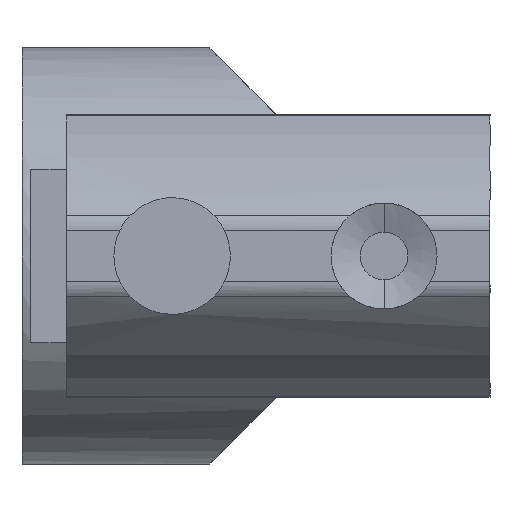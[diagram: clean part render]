
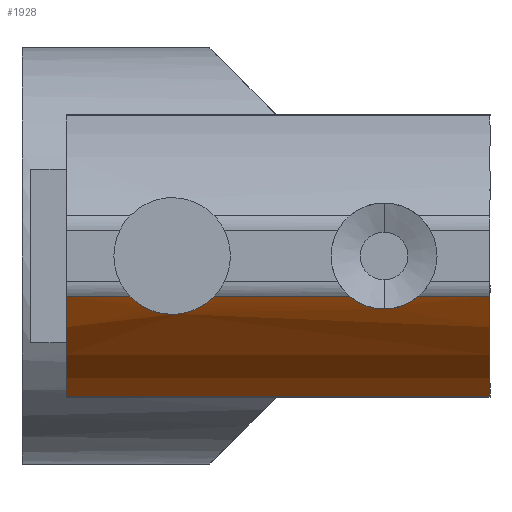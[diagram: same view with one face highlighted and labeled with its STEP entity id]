
A CAD part, left-side view. The second image highlights one B-rep face of the part: STEP entity #1928.
In plain terms, the highlighted cylindrical face has radius 8.5 mm (diameter 17 mm), a partial arc.
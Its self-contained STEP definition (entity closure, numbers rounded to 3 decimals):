
#18 = CARTESIAN_POINT ( 'NONE',  ( 1.5, -3.793, 2.817 ) ) ;
#35 = CARTESIAN_POINT ( 'NONE',  ( 1.5, -3.793, 3.094 ) ) ;
#41 = DIRECTION ( 'NONE',  ( 1., 0., 0. ) ) ;
#89 = CARTESIAN_POINT ( 'NONE',  ( 1.139, -4.068, -1.806 ) ) ;
#93 = EDGE_CURVE ( 'NONE', #2501, #506, #348, .T. ) ;
#114 = VERTEX_POINT ( 'NONE', #1478 ) ;
#165 = AXIS2_PLACEMENT_3D ( 'NONE', #2352, #2341, #735 ) ;
#198 = EDGE_LOOP ( 'NONE', ( #810, #341, #1432, #242, #1136, #1187, #2339, #2640 ) ) ;
#242 = ORIENTED_EDGE ( 'NONE', *, *, #2325, .T. ) ;
#247 = CARTESIAN_POINT ( 'NONE',  ( 1.139, -4.068, 6. ) ) ;
#252 = CARTESIAN_POINT ( 'NONE',  ( 1.139, -4.068, 2.023 ) ) ;
#327 = CARTESIAN_POINT ( 'NONE',  ( 3.967, -0.559, 6. ) ) ;
#329 = CARTESIAN_POINT ( 'NONE',  ( 1.139, -4.068, 2.023 ) ) ;
#330 = CARTESIAN_POINT ( 'NONE',  ( 1.407, -3.867, -2.131 ) ) ;
#341 = ORIENTED_EDGE ( 'NONE', *, *, #2145, .F. ) ;
#348 = LINE ( 'NONE', #2284, #2521 ) ;
#355 = VERTEX_POINT ( 'NONE', #2434 ) ;
#438 = VERTEX_POINT ( 'NONE', #1869 ) ;
#506 = VERTEX_POINT ( 'NONE', #89 ) ;
#508 = CARTESIAN_POINT ( 'NONE',  ( 1.214, -4.014, -1.878 ) ) ;
#511 = CARTESIAN_POINT ( 'NONE',  ( 1.433, -3.846, 3.451 ) ) ;
#547 = VECTOR ( 'NONE', #1413, 1000. ) ;
#572 = FACE_OUTER_BOUND ( 'NONE', #198, .T. ) ;
#591 = CARTESIAN_POINT ( 'NONE',  ( -3.828, 2.83, -6. ) ) ;
#600 = VERTEX_POINT ( 'NONE', #2157 ) ;
#664 = CARTESIAN_POINT ( 'NONE',  ( 1.248, -3.989, 3.849 ) ) ;
#680 = CARTESIAN_POINT ( 'NONE',  ( 1.465, -3.821, 2.633 ) ) ;
#722 = CARTESIAN_POINT ( 'NONE',  ( 1.139, -4.068, -4.194 ) ) ;
#735 = DIRECTION ( 'NONE',  ( 1., 0., 0. ) ) ;
#758 = DIRECTION ( 'NONE',  ( 0., 0., -1. ) ) ;
#788 = CYLINDRICAL_SURFACE ( 'NONE', #165, 8.5 ) ;
#810 = ORIENTED_EDGE ( 'NONE', *, *, #1843, .F. ) ;
#830 = DIRECTION ( 'NONE',  ( 0., 0., 1. ) ) ;
#1015 = VERTEX_POINT ( 'NONE', #327 ) ;
#1044 = CARTESIAN_POINT ( 'NONE',  ( 1.139, -4.068, 6. ) ) ;
#1067 = AXIS2_PLACEMENT_3D ( 'NONE', #591, #1696, #2775 ) ;
#1094 = CARTESIAN_POINT ( 'NONE',  ( 1.491, -3.8, 3.187 ) ) ;
#1105 = CARTESIAN_POINT ( 'NONE',  ( 1.339, -3.92, 2.301 ) ) ;
#1116 = VECTOR ( 'NONE', #758, 1000. ) ;
#1136 = ORIENTED_EDGE ( 'NONE', *, *, #93, .T. ) ;
#1158 = CARTESIAN_POINT ( 'NONE',  ( 1.65, -3.669, -3.114 ) ) ;
#1162 = VECTOR ( 'NONE', #1687, 1000. ) ;
#1168 = CARTESIAN_POINT ( 'NONE',  ( 3.967, -0.559, 6. ) ) ;
#1187 = ORIENTED_EDGE ( 'NONE', *, *, #2007, .T. ) ;
#1203 = CARTESIAN_POINT ( 'NONE',  ( 1.553, -3.75, -3.567 ) ) ;
#1219 = CARTESIAN_POINT ( 'NONE',  ( -3.828, 2.83, 6. ) ) ;
#1292 = CARTESIAN_POINT ( 'NONE',  ( 1.139, -4.068, 3.977 ) ) ;
#1302 = CARTESIAN_POINT ( 'NONE',  ( 1.338, -3.92, 3.701 ) ) ;
#1383 = B_SPLINE_CURVE_WITH_KNOTS ( 'NONE', 3,
 ( #1292, #664, #1302, #511, #1548, #1094, #35, #18, #680, #1105, #1423, #252 ),
 .UNSPECIFIED., .F., .F.,
 ( 4, 2, 2, 2, 2, 4 ),
 ( 0., 0.001, 0.001, 0.001, 0.002, 0.002 ),
 .UNSPECIFIED. ) ;
#1400 = EDGE_CURVE ( 'NONE', #355, #114, #2118, .T. ) ;
#1413 = DIRECTION ( 'NONE',  ( 0., 0., -1. ) ) ;
#1423 = CARTESIAN_POINT ( 'NONE',  ( 1.248, -3.989, 2.151 ) ) ;
#1432 = ORIENTED_EDGE ( 'NONE', *, *, #2871, .T. ) ;
#1443 = CARTESIAN_POINT ( 'NONE',  ( 1.283, -3.962, -1.957 ) ) ;
#1462 = CARTESIAN_POINT ( 'NONE',  ( 1.139, -4.068, 6. ) ) ;
#1478 = CARTESIAN_POINT ( 'NONE',  ( 3.967, -0.559, -6. ) ) ;
#1500 = LINE ( 'NONE', #1168, #547 ) ;
#1548 = CARTESIAN_POINT ( 'NONE',  ( 1.458, -3.827, 3.365 ) ) ;
#1687 = DIRECTION ( 'NONE',  ( 0., 0., -1. ) ) ;
#1696 = DIRECTION ( 'NONE',  ( 0., 0., 1. ) ) ;
#1776 = LINE ( 'NONE', #1462, #1116 ) ;
#1843 = EDGE_CURVE ( 'NONE', #1015, #114, #1500, .T. ) ;
#1869 = CARTESIAN_POINT ( 'NONE',  ( 1.139, -4.068, 3.977 ) ) ;
#1928 = ADVANCED_FACE ( 'NONE', ( #572 ), #788, .T. ) ;
#2006 = CARTESIAN_POINT ( 'NONE',  ( 1.418, -3.859, -3.873 ) ) ;
#2007 = EDGE_CURVE ( 'NONE', #506, #600, #2048, .T. ) ;
#2048 = B_SPLINE_CURVE_WITH_KNOTS ( 'NONE', 3,
 ( #2905, #508, #1443, #330, #2714, #2958, #2664, #1158, #2946, #2148, #1203, #2006, #2886, #722 ),
 .UNSPECIFIED., .F., .F.,
 ( 4, 2, 2, 2, 2, 2, 4 ),
 ( 0., 0., 0.001, 0.001, 0.002, 0.002, 0.003 ),
 .UNSPECIFIED. ) ;
#2115 = EDGE_CURVE ( 'NONE', #600, #355, #2400, .T. ) ;
#2118 = CIRCLE ( 'NONE', #1067, 8.5 ) ;
#2145 = EDGE_CURVE ( 'NONE', #2988, #1015, #2283, .T. ) ;
#2148 = CARTESIAN_POINT ( 'NONE',  ( 1.589, -3.72, -3.458 ) ) ;
#2157 = CARTESIAN_POINT ( 'NONE',  ( 1.139, -4.068, -4.194 ) ) ;
#2232 = DIRECTION ( 'NONE',  ( 0., 0., -1. ) ) ;
#2283 = CIRCLE ( 'NONE', #2708, 8.5 ) ;
#2284 = CARTESIAN_POINT ( 'NONE',  ( 1.139, -4.068, 6. ) ) ;
#2325 = EDGE_CURVE ( 'NONE', #438, #2501, #1383, .T. ) ;
#2339 = ORIENTED_EDGE ( 'NONE', *, *, #2115, .T. ) ;
#2341 = DIRECTION ( 'NONE',  ( 0., 0., 1. ) ) ;
#2352 = CARTESIAN_POINT ( 'NONE',  ( -3.828, 2.83, 6. ) ) ;
#2400 = LINE ( 'NONE', #247, #1162 ) ;
#2434 = CARTESIAN_POINT ( 'NONE',  ( 1.139, -4.068, -6. ) ) ;
#2501 = VERTEX_POINT ( 'NONE', #329 ) ;
#2521 = VECTOR ( 'NONE', #2232, 1000. ) ;
#2640 = ORIENTED_EDGE ( 'NONE', *, *, #1400, .T. ) ;
#2664 = CARTESIAN_POINT ( 'NONE',  ( 1.65, -3.67, -2.764 ) ) ;
#2708 = AXIS2_PLACEMENT_3D ( 'NONE', #1219, #830, #41 ) ;
#2714 = CARTESIAN_POINT ( 'NONE',  ( 1.462, -3.824, -2.227 ) ) ;
#2775 = DIRECTION ( 'NONE',  ( 1., 0., 0. ) ) ;
#2871 = EDGE_CURVE ( 'NONE', #2988, #438, #1776, .T. ) ;
#2886 = CARTESIAN_POINT ( 'NONE',  ( 1.29, -3.959, -4.05 ) ) ;
#2905 = CARTESIAN_POINT ( 'NONE',  ( 1.139, -4.068, -1.806 ) ) ;
#2946 = CARTESIAN_POINT ( 'NONE',  ( 1.638, -3.68, -3.233 ) ) ;
#2958 = CARTESIAN_POINT ( 'NONE',  ( 1.598, -3.714, -2.532 ) ) ;
#2988 = VERTEX_POINT ( 'NONE', #1044 ) ;
